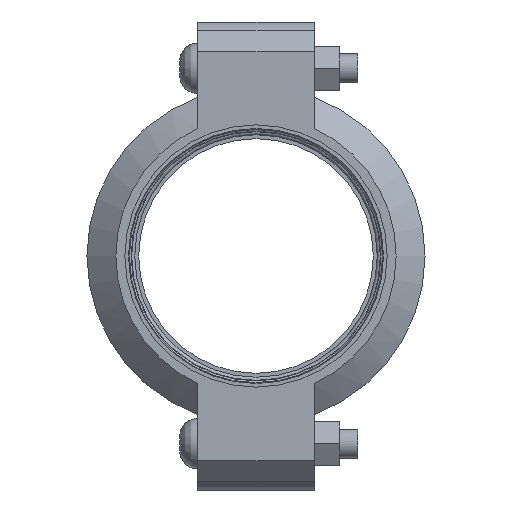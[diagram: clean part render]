
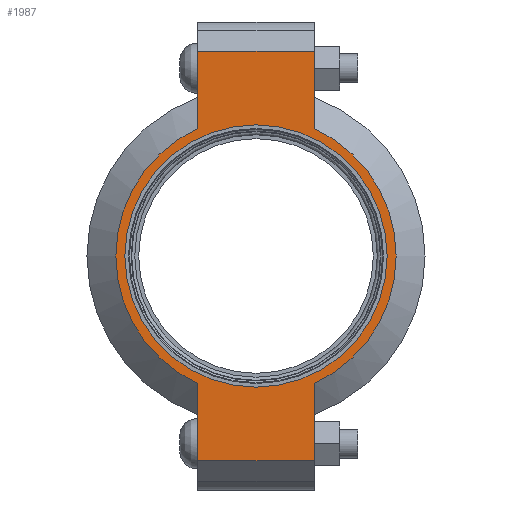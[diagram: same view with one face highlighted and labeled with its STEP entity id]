
A CAD part, left-side view. The second image highlights one B-rep face of the part: STEP entity #1987.
In plain terms, the highlighted planar face has unit normal (-1, 0, 0) as drawn and (0, 0, 1) by its records, which use the part's own axes.
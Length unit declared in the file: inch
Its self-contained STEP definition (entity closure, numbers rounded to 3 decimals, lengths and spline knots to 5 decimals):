
#176=LINE('',#3521,#273);
#184=LINE('',#3557,#281);
#191=LINE('',#3578,#288);
#200=LINE('',#3610,#297);
#201=LINE('',#3614,#298);
#202=LINE('',#3616,#299);
#273=VECTOR('',#2865,0.3937);
#281=VECTOR('',#2881,0.3937);
#288=VECTOR('',#2900,0.3937);
#297=VECTOR('',#2925,0.3937);
#298=VECTOR('',#2930,0.3937);
#299=VECTOR('',#2931,0.3937);
#355=FACE_BOUND('',#605,.T.);
#399=PLANE('',#2326);
#487=FACE_OUTER_BOUND('',#604,.T.);
#604=EDGE_LOOP('',(#1708,#1709,#1710,#1711,#1712,#1713,#1714,#1715));
#605=EDGE_LOOP('',(#1716));
#777=CIRCLE('',#2327,2.405);
#778=CIRCLE('',#2328,2.405);
#779=CIRCLE('',#2329,2.25);
#941=VERTEX_POINT('',#3518);
#942=VERTEX_POINT('',#3520);
#953=VERTEX_POINT('',#3552);
#954=VERTEX_POINT('',#3556);
#961=VERTEX_POINT('',#3575);
#962=VERTEX_POINT('',#3577);
#972=VERTEX_POINT('',#3613);
#973=VERTEX_POINT('',#3615);
#974=VERTEX_POINT('',#3618);
#1186=EDGE_CURVE('',#942,#941,#176,.T.);
#1200=EDGE_CURVE('',#954,#953,#184,.T.);
#1210=EDGE_CURVE('',#962,#961,#191,.T.);
#1225=EDGE_CURVE('',#954,#941,#200,.T.);
#1226=EDGE_CURVE('',#953,#962,#777,.T.);
#1227=EDGE_CURVE('',#972,#961,#201,.T.);
#1228=EDGE_CURVE('',#972,#973,#202,.T.);
#1229=EDGE_CURVE('',#973,#942,#778,.T.);
#1230=EDGE_CURVE('',#974,#974,#779,.T.);
#1708=ORIENTED_EDGE('',*,*,#1225,.F.);
#1709=ORIENTED_EDGE('',*,*,#1200,.T.);
#1710=ORIENTED_EDGE('',*,*,#1226,.T.);
#1711=ORIENTED_EDGE('',*,*,#1210,.T.);
#1712=ORIENTED_EDGE('',*,*,#1227,.F.);
#1713=ORIENTED_EDGE('',*,*,#1228,.T.);
#1714=ORIENTED_EDGE('',*,*,#1229,.T.);
#1715=ORIENTED_EDGE('',*,*,#1186,.T.);
#1716=ORIENTED_EDGE('',*,*,#1230,.T.);
#1987=ADVANCED_FACE('',(#487,#355),#399,.T.);
#2326=AXIS2_PLACEMENT_3D('',#3611,#2926,#2927);
#2327=AXIS2_PLACEMENT_3D('',#3612,#2928,#2929);
#2328=AXIS2_PLACEMENT_3D('',#3617,#2932,#2933);
#2329=AXIS2_PLACEMENT_3D('',#3619,#2934,#2935);
#2865=DIRECTION('',(1.,0.,0.));
#2881=DIRECTION('',(-1.,0.,0.));
#2900=DIRECTION('',(-1.,0.,0.));
#2925=DIRECTION('',(0.,-1.,0.));
#2926=DIRECTION('center_axis',(0.,0.,1.));
#2927=DIRECTION('ref_axis',(-1.,0.,0.));
#2928=DIRECTION('center_axis',(0.,0.,1.));
#2929=DIRECTION('ref_axis',(1.,0.,0.));
#2930=DIRECTION('',(0.,1.,0.));
#2931=DIRECTION('',(1.,0.,0.));
#2932=DIRECTION('center_axis',(0.,0.,1.));
#2933=DIRECTION('ref_axis',(1.,0.,0.));
#2934=DIRECTION('center_axis',(0.,0.,-1.));
#2935=DIRECTION('ref_axis',(1.,0.,0.));
#3518=CARTESIAN_POINT('',(3.515,-1.,1.065));
#3520=CARTESIAN_POINT('',(2.18724,-1.,1.065));
#3521=CARTESIAN_POINT('',(4.015,-1.,1.065));
#3552=CARTESIAN_POINT('',(2.18724,1.,1.065));
#3556=CARTESIAN_POINT('',(3.515,1.,1.065));
#3557=CARTESIAN_POINT('',(-4.015,1.,1.065));
#3575=CARTESIAN_POINT('',(-3.515,1.,1.065));
#3577=CARTESIAN_POINT('',(-2.18724,1.,1.065));
#3578=CARTESIAN_POINT('',(-4.015,1.,1.065));
#3610=CARTESIAN_POINT('',(3.515,-0.5,1.065));
#3611=CARTESIAN_POINT('Origin',(0.,0.,
1.065));
#3612=CARTESIAN_POINT('Origin',(0.,0.,1.065));
#3613=CARTESIAN_POINT('',(-3.515,-1.,1.065));
#3614=CARTESIAN_POINT('',(-3.515,0.5,1.065));
#3615=CARTESIAN_POINT('',(-2.18724,-1.,1.065));
#3616=CARTESIAN_POINT('',(4.015,-1.,1.065));
#3617=CARTESIAN_POINT('Origin',(0.,0.,1.065));
#3618=CARTESIAN_POINT('',(-2.25,0.,1.065));
#3619=CARTESIAN_POINT('Origin',(0.,0.,1.065));
